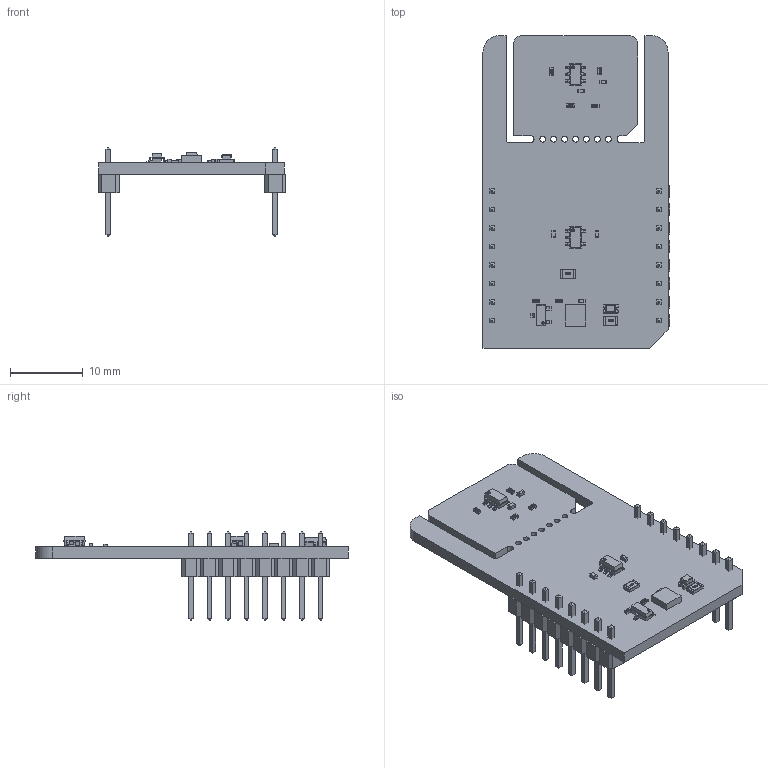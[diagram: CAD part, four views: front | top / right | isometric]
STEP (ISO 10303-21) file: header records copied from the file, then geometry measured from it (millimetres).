
FILE_DESCRIPTION(('Open CASCADE Model'),'2;1');
FILE_NAME('Open CASCADE Shape Model','2026-04-14T13:54:57',('Author'),( 'Open CASCADE'),'Open CASCADE STEP processor 7.5','Open CASCADE 7.5' ,'Unknown');
FILE_SCHEMA(('AUTOMOTIVE_DESIGN { 1 0 10303 214 1 1 1 1 }'));
Length unit declared in the file: millimetre
Products named in the file (37): PCB; Board; Open CASCADE STEP translator 7.5 1.1.1; U3; User Library-SOT23-5-2; U2; User Library-SOT23-6-2; R7; User Library-R_0402; R6; R5; R3; C5; User Library-SMD CAPACITOR0402; C4; C3; C2; R1; User Library-R_0805; LD1; led_0805_green; R2; C1; R4; Q1; SOT23-3; U1; 8788423088; Extruded; MBD1; Header 1x8; Free-Models; 1240637040; User_Library-PinHeaderX5-1_PinHeaderX5_Body_1; User_Library-PinHeaderX5-1_PinHeaderX5_Pins_1; JP1
Assembly tree (48 placements, depth 7):
  PCB
    Board
      Open CASCADE STEP translator 7.5 1.1.1
    U3
      User Library-SOT23-5-2
    U2
      User Library-SOT23-6-2
    R7
      User Library-R_0402
    R6
      User Library-R_0402
    R5
      User Library-R_0402
    R3
      User Library-R_0402
    C5
      User Library-SMD CAPACITOR0402
    C4
      User Library-SMD CAPACITOR0402
    C3
      User Library-SMD CAPACITOR0402
    C2
      User Library-SMD CAPACITOR0402
    R1
      User Library-R_0805
    LD1
      led_0805_green
    R2
      User Library-R_0402
    C1
      User Library-SMD CAPACITOR0402
    R4
      User Library-R_0402
    Q1
      SOT23-3
    U1
      8788423088
        Extruded
    MBD1
      Header 1x8  x2
        PCB
          Free-Models
            1240637040  x2
              User_Library-PinHeaderX5-1_PinHeaderX5_Body_1
              User_Library-PinHeaderX5-1_PinHeaderX5_Pins_1
    JP1
      User Library-R_0805
Bounding box: 25.78 x 42.93 x 12.19 mm (x, y, z)
Volume: 2157.2 mm3; surface area: 3921.5 mm2
Topology: 51 solids, 51 shells, 1724 faces, 4319 edges, 2726 vertices
Faces by surface type: plane 1272, bspline 240, cylinder 162, sphere 50
Full cylindrical faces by diameter (mm): 0.8 x7
Entity records: 27708 total; most frequent: CARTESIAN_POINT 7909, ORIENTED_EDGE 3408, DIRECTION 3091, EDGE_CURVE 1704, LINE 1359, VECTOR 1359, VERTEX_POINT 1084, AXIS2_PLACEMENT_3D 866
